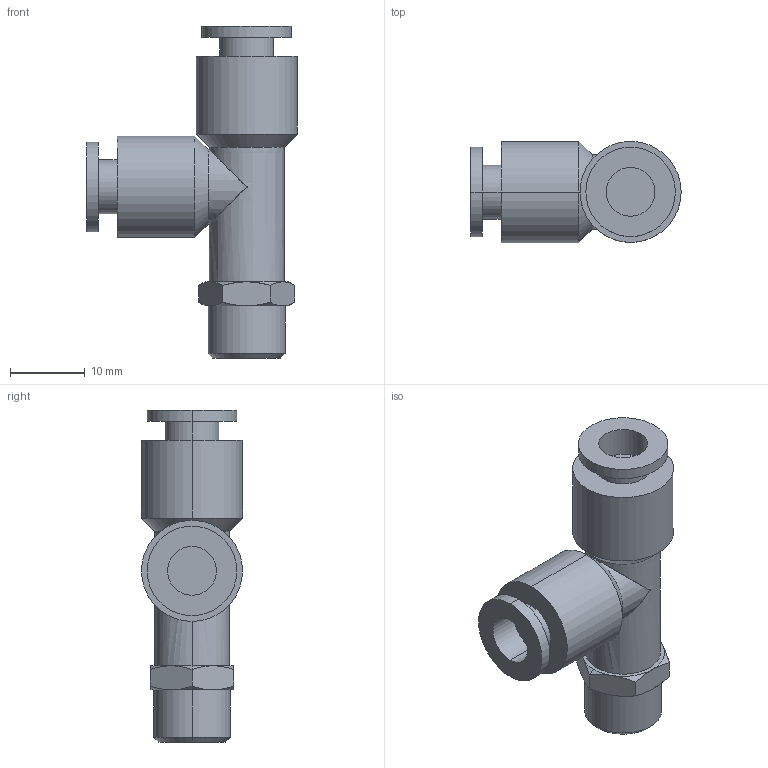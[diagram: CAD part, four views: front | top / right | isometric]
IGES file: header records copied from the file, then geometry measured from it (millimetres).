
Global section: file name: C:\Documents and Settings\Administrator\My Documents\PersonalProject\smcmaleruntee.igs; native system: AutoDesk Inventor R2.0 ; preprocessor: AutoDesk Inventor Iges Exporter R2.0; author: No Author specified; organization: No Organization specified; date: 20020115.192021; units: inch
Bounding box: 28.17 x 13.54 x 44.48 mm (x, y, z)
Surface area: 3319.8 mm2 (no closed solid volume)
Topology: 0 solids, 0 shells, 71 faces, 290 edges, 288 vertices
Faces by surface type: revolution 50, bspline 21
